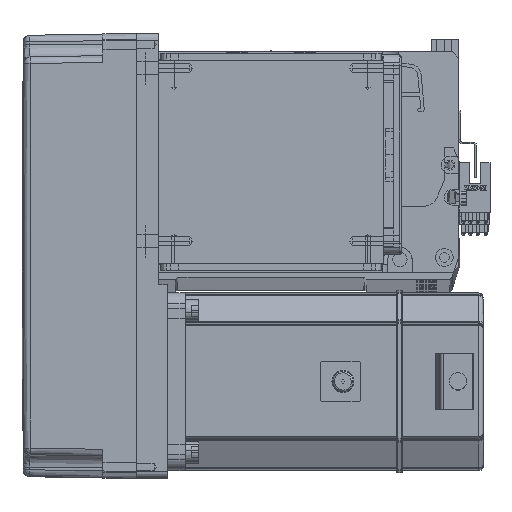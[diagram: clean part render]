
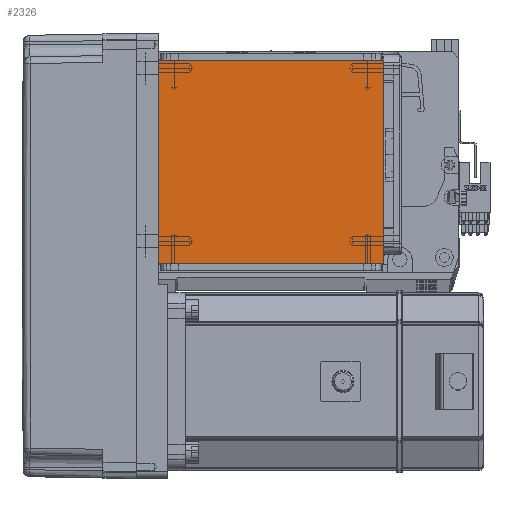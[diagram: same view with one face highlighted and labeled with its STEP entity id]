
A CAD part, top view. The second image highlights one B-rep face of the part: STEP entity #2326.
In plain terms, the highlighted planar face has unit normal (0, 0, 1).
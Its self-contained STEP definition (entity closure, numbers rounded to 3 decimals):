
#1108 = VERTEX_POINT ( 'NONE', #29897 ) ;
#2326 = ADVANCED_FACE ( 'NONE', ( #25460 ), #29157, .T. ) ;
#7551 = ORIENTED_EDGE ( 'NONE', *, *, #46039, .F. ) ;
#8500 = VERTEX_POINT ( 'NONE', #29135 ) ;
#8867 = CARTESIAN_POINT ( 'NONE',  ( -50.5, 20., 115. ) ) ;
#10659 = DIRECTION ( 'NONE',  ( -1., 0., 0. ) ) ;
#11099 = VERTEX_POINT ( 'NONE', #41759 ) ;
#13386 = VECTOR ( 'NONE', #10659, 1000. ) ;
#15700 = CARTESIAN_POINT ( 'NONE',  ( -70.004, 20., 115. ) ) ;
#21788 = LINE ( 'NONE', #57152, #61581 ) ;
#21842 = CARTESIAN_POINT ( 'NONE',  ( -50.5, 122., 115. ) ) ;
#22121 = VECTOR ( 'NONE', #62107, 1000. ) ;
#25460 = FACE_OUTER_BOUND ( 'NONE', #57061, .T. ) ;
#29135 = CARTESIAN_POINT ( 'NONE',  ( 50.5, 20., 115. ) ) ;
#29157 = PLANE ( 'NONE',  #54092 ) ;
#29897 = CARTESIAN_POINT ( 'NONE',  ( 50.5, 111.5, 115. ) ) ;
#31337 = LINE ( 'NONE', #15700, #13386 ) ;
#31967 = EDGE_CURVE ( 'NONE', #8500, #34364, #31337, .T. ) ;
#34364 = VERTEX_POINT ( 'NONE', #8867 ) ;
#34554 = ORIENTED_EDGE ( 'NONE', *, *, #48576, .T. ) ;
#36075 = EDGE_CURVE ( 'NONE', #11099, #34364, #50292, .T. ) ;
#37762 = ORIENTED_EDGE ( 'NONE', *, *, #36075, .T. ) ;
#38686 = DIRECTION ( 'NONE',  ( 1., 0., 0. ) ) ;
#39135 = CARTESIAN_POINT ( 'NONE',  ( 0., 0., 115. ) ) ;
#41759 = CARTESIAN_POINT ( 'NONE',  ( -50.5, 111.5, 115. ) ) ;
#42218 = DIRECTION ( 'NONE',  ( 0., -1., 0. ) ) ;
#46039 = EDGE_CURVE ( 'NONE', #11099, #1108, #56210, .T. ) ;
#47068 = CARTESIAN_POINT ( 'NONE',  ( -70.004, 111.5, 115. ) ) ;
#48576 = EDGE_CURVE ( 'NONE', #8500, #1108, #21788, .T. ) ;
#50292 = LINE ( 'NONE', #21842, #55975 ) ;
#54092 = AXIS2_PLACEMENT_3D ( 'NONE', #39135, #65525, #38686 ) ;
#55065 = ORIENTED_EDGE ( 'NONE', *, *, #31967, .F. ) ;
#55975 = VECTOR ( 'NONE', #42218, 1000. ) ;
#56210 = LINE ( 'NONE', #47068, #22121 ) ;
#57061 = EDGE_LOOP ( 'NONE', ( #7551, #37762, #55065, #34554 ) ) ;
#57152 = CARTESIAN_POINT ( 'NONE',  ( 50.5, 122., 115. ) ) ;
#57611 = DIRECTION ( 'NONE',  ( 0., 1., 0. ) ) ;
#61581 = VECTOR ( 'NONE', #57611, 1000. ) ;
#62107 = DIRECTION ( 'NONE',  ( 1., 0., 0. ) ) ;
#65525 = DIRECTION ( 'NONE',  ( 0., 0., 1. ) ) ;
